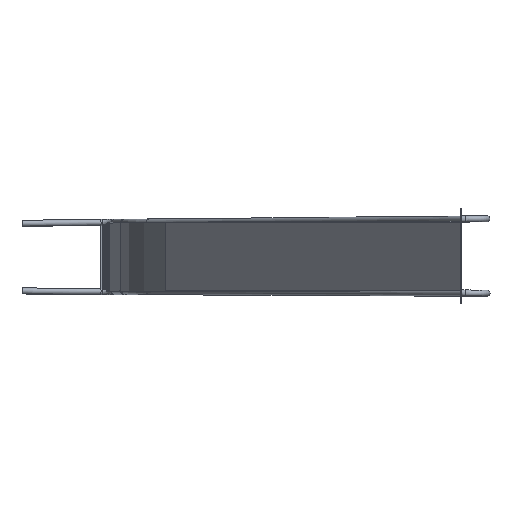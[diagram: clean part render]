
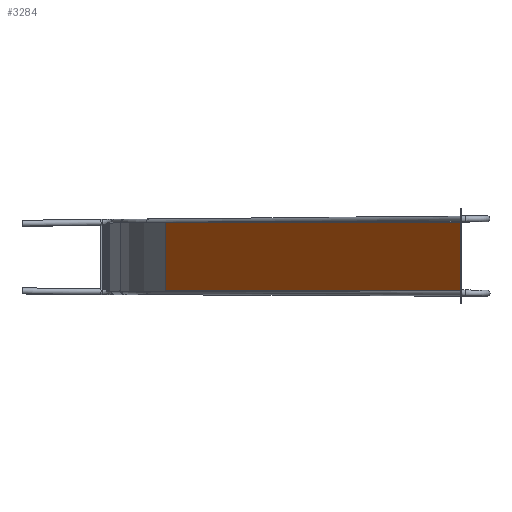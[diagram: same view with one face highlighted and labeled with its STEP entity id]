
A CAD part, top view. The second image highlights one B-rep face of the part: STEP entity #3284.
In plain terms, the highlighted planar face has unit normal (-0.788, 0, 0.616) as drawn and (0, 0, 1) by its records, which use the part's own axes.
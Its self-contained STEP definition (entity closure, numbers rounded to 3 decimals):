
#246=FACE_OUTER_BOUND('',#451,.T.);
#451=EDGE_LOOP('',(#2355,#2356,#2357,#2358,#2359,#2360,#2361,#2362));
#767=LINE('',#5242,#1098);
#787=LINE('',#5298,#1118);
#789=LINE('',#5302,#1120);
#794=LINE('',#5503,#1125);
#811=LINE('',#5543,#1142);
#812=LINE('',#5545,#1143);
#814=LINE('',#5549,#1145);
#816=LINE('',#5569,#1147);
#1098=VECTOR('',#4016,10.);
#1118=VECTOR('',#4072,10.);
#1120=VECTOR('',#4076,10.);
#1125=VECTOR('',#4087,10.);
#1142=VECTOR('',#4130,10.);
#1143=VECTOR('',#4133,10.);
#1145=VECTOR('',#4137,10.);
#1147=VECTOR('',#4145,10.);
#1414=VERTEX_POINT('',#5202);
#1417=VERTEX_POINT('',#5210);
#1444=VERTEX_POINT('',#5278);
#1447=VERTEX_POINT('',#5292);
#1448=VERTEX_POINT('',#5301);
#1449=VERTEX_POINT('',#5305);
#1461=VERTEX_POINT('',#5541);
#1462=VERTEX_POINT('',#5547);
#1721=EDGE_CURVE('',#1414,#1417,#767,.T.);
#1749=EDGE_CURVE('',#1444,#1447,#787,.T.);
#1751=EDGE_CURVE('',#1444,#1448,#789,.T.);
#1758=EDGE_CURVE('',#1414,#1449,#794,.T.);
#1778=EDGE_CURVE('',#1461,#1447,#811,.T.);
#1779=EDGE_CURVE('',#1448,#1449,#812,.T.);
#1781=EDGE_CURVE('',#1462,#1461,#814,.T.);
#1786=EDGE_CURVE('',#1462,#1417,#816,.T.);
#2355=ORIENTED_EDGE('',*,*,#1749,.T.);
#2356=ORIENTED_EDGE('',*,*,#1778,.F.);
#2357=ORIENTED_EDGE('',*,*,#1781,.F.);
#2358=ORIENTED_EDGE('',*,*,#1786,.T.);
#2359=ORIENTED_EDGE('',*,*,#1721,.F.);
#2360=ORIENTED_EDGE('',*,*,#1758,.T.);
#2361=ORIENTED_EDGE('',*,*,#1779,.F.);
#2362=ORIENTED_EDGE('',*,*,#1751,.F.);
#3137=PLANE('',#3675);
#3284=ADVANCED_FACE('',(#246),#3137,.F.);
#3675=AXIS2_PLACEMENT_3D('',#5662,#4155,#4156);
#4016=DIRECTION('',(0.,1.,0.));
#4072=DIRECTION('',(0.,1.,0.));
#4076=DIRECTION('',(-1.,0.,0.));
#4087=DIRECTION('',(1.,0.,0.));
#4130=DIRECTION('',(1.,0.,0.));
#4133=DIRECTION('',(0.,-1.,0.));
#4137=DIRECTION('',(0.,-1.,0.));
#4145=DIRECTION('',(-1.,0.,0.));
#4155=DIRECTION('center_axis',(0.,0.,-1.));
#4156=DIRECTION('ref_axis',(0.,1.,0.));
#5202=CARTESIAN_POINT('',(-3087.964,4.,-540.524));
#5210=CARTESIAN_POINT('',(-3087.964,427.476,-540.524));
#5242=CARTESIAN_POINT('',(-3087.964,-146.262,-540.524));
#5278=CARTESIAN_POINT('',(-97.342,5.765,-540.524));
#5292=CARTESIAN_POINT('',(-97.342,425.765,-540.524));
#5298=CARTESIAN_POINT('',(-97.342,320.765,-540.524));
#5301=CARTESIAN_POINT('',(-98.919,5.765,-540.524));
#5302=CARTESIAN_POINT('',(-97.009,5.765,-540.524));
#5305=CARTESIAN_POINT('',(-98.919,4.,-540.524));
#5503=CARTESIAN_POINT('',(-315.82,4.,-540.524));
#5541=CARTESIAN_POINT('',(-98.919,425.765,-540.524));
#5543=CARTESIAN_POINT('',(-98.919,425.765,-540.524));
#5545=CARTESIAN_POINT('',(-98.919,5.765,-540.524));
#5547=CARTESIAN_POINT('',(-98.919,427.476,-540.524));
#5549=CARTESIAN_POINT('',(-98.919,430.289,-540.524));
#5569=CARTESIAN_POINT('',(-152.797,427.476,-540.524));
#5662=CARTESIAN_POINT('Origin',(-206.675,215.765,-540.524));
